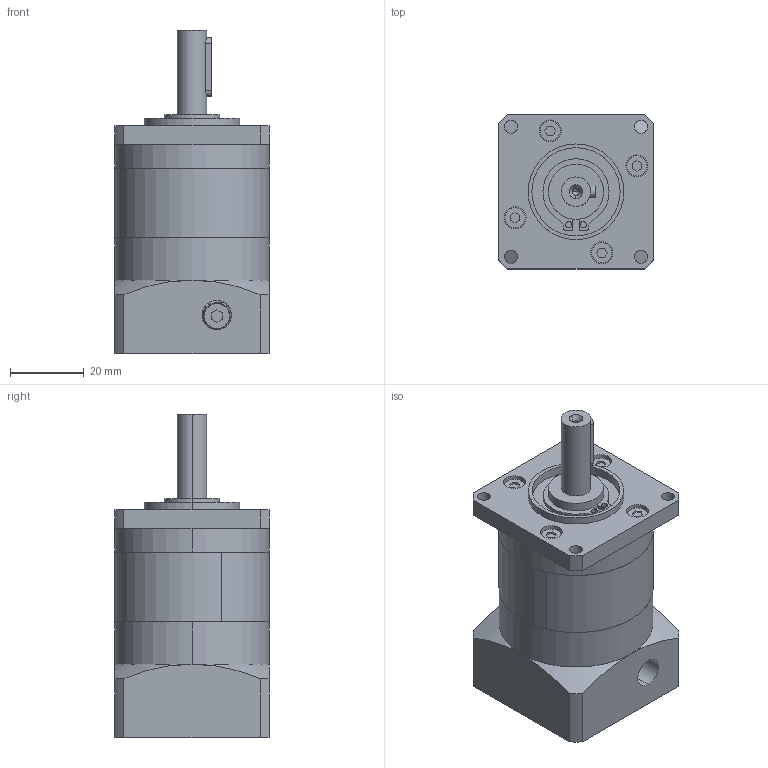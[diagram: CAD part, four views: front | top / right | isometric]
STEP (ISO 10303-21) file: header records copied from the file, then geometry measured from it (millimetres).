
FILE_DESCRIPTION (( 'STEP AP203' ), '1' );
FILE_NAME ('PLF040-L1-8-30-46-输出非标轴8凸台26对角43.STEP', '2024-07-16T06:45:45', ( 'Windows User' ), ( 'P R C' ), 'SwSTEP 2.0', 'SolidWorks 2016', '' );
FILE_SCHEMA (( 'CONFIG_CONTROL_DESIGN' ));
Length unit declared in the file: millimetre
Products named in the file (7): PLF40 奻屳唳-8嫖粣-26_D1-70 D2-5.5 D3-14 D4-17 D5-50 L1-30 L2-35 L3-3 A1-60 S1-3 S2-20 S3-5 S4-18 B-5 H-16 C-M5 梓袧; PLF40 κｳﾝﾈｦ_ﾒｻｼｶﾄﾚｳﾝﾈｦ; PLF40 帣釱_D6-60 D7-14 梓袧; 邧埴瑩 3x3x16; 囀鞠褒蹟佪-M4℅12; GB／T276-94深沟球轴承61902-2RZ; PLF040-L1-8-30-46-输出非标轴8凸台26对角43
Assembly tree (6 placements, depth 2):
  PLF040-L1-8-30-46-输出非标轴8凸台26对角43
    PLF40 奻屳唳-8嫖粣-26_D1-70 D2-5.5 D3-14 D4-17 D5-50 L1-30 L2-35 L3-3 A1-60 S1-3 S2-20 S3-5 S4-18 B-5 H-16 C-M5 梓袧
    PLF40 κｳﾝﾈｦ_ﾒｻｼｶﾄﾚｳﾝﾈｦ
    PLF40 帣釱_D6-60 D7-14 梓袧
    邧埴瑩 3x3x16
    囀鞠褒蹟佪-M4℅12
    GB／T276-94深沟球轴承61902-2RZ
Bounding box: 42 x 42 x 88 mm (x, y, z)
Volume: 81979.6 mm3; surface area: 32335 mm2
Topology: 24 solids, 24 shells, 920 faces, 2540 edges, 1675 vertices
Faces by surface type: plane 488, bspline 262, cylinder 156, cone 14
Entity records: 41289 total; most frequent: CARTESIAN_POINT 18704, ORIENTED_EDGE 5060, DIRECTION 3698, EDGE_CURVE 2530, VERTEX_POINT 1675, LINE 1298, VECTOR 1298, AXIS2_PLACEMENT_3D 1200
